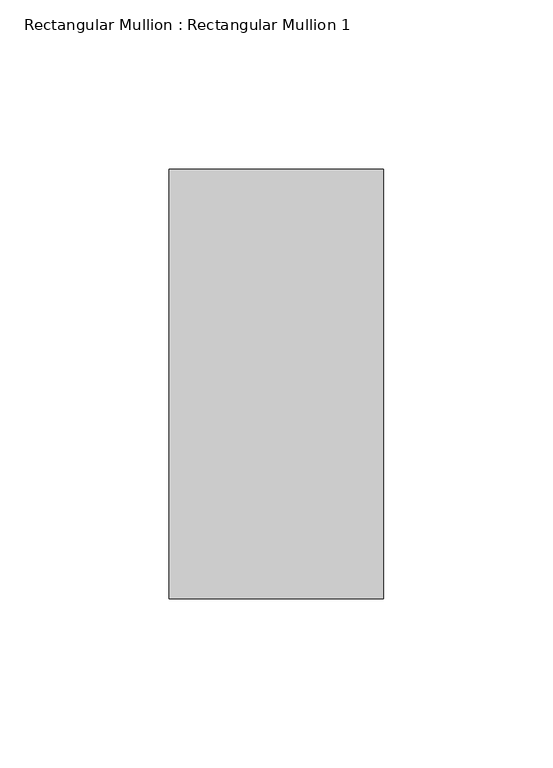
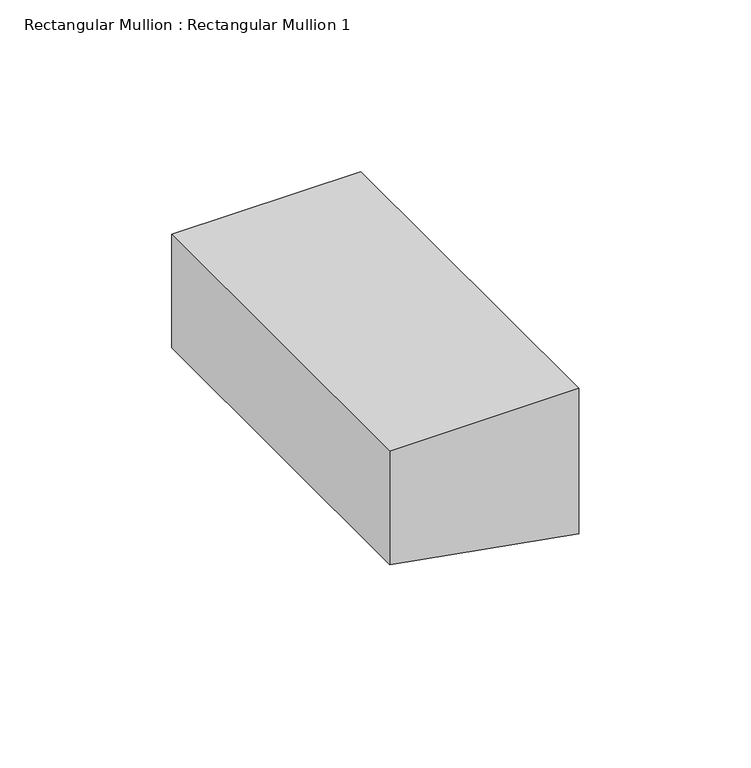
"""IFC4 building model written with IfcOpenShell, lengths in millimetres: member geometry, Rectangular Mullion : Rectangular Mullion 1."""

from ifc_helpers import new_model, si_unit, frame, origin, place, context, project, spatial, polyline, outline, extrude, source, transform, mapped, element, save


def rectangular_mullion_rectangular_mullion_1_4a96a3d2(model_context):
    return source(origin(), model_context, "Body", "SweptSolid", [
        extrude(outline(polyline([(0.0, 0.0), (0.0, -63.5), (-40.3869086, -63.5), (-51.5836719, 0.0), (0.0, 0.0)])), frame((0.0, -63.5, 0.0), z_axis=(0.0, 1.0, 0.0), x_axis=(0.0, 0.0, 1.0)), (0.0, 0.0, 1.0), 127.0),
    ])


if __name__ == "__main__":
    model = new_model("IFC4")
    model_context = context("Model", 3, world=origin())
    ifc_project = project(units=[si_unit("LENGTHUNIT", "METRE", prefix="MILLI")], contexts=[model_context])
    site = spatial("IfcSite", under=ifc_project)
    building = spatial("IfcBuilding", under=site)
    placement = place(None, origin())
    rectangular_mullion_rectangular_mullion_1_shape = rectangular_mullion_rectangular_mullion_1_4a96a3d2(model_context)
    element("IfcMember", 1, ObjectType="Rectangular Mullion : Rectangular Mullion 1", at=placement, inside=building, context=model_context, shape_type="MappedRepresentation", body=[
        mapped(rectangular_mullion_rectangular_mullion_1_shape, transform((0.0, 0.0, 0.0), x_axis=(1.0, 0.0, 0.0), y_axis=(0.0, 1.0, 0.0), z_axis=(0.0, 0.0, 1.0))),
    ])
    save(model, "model.ifc")
